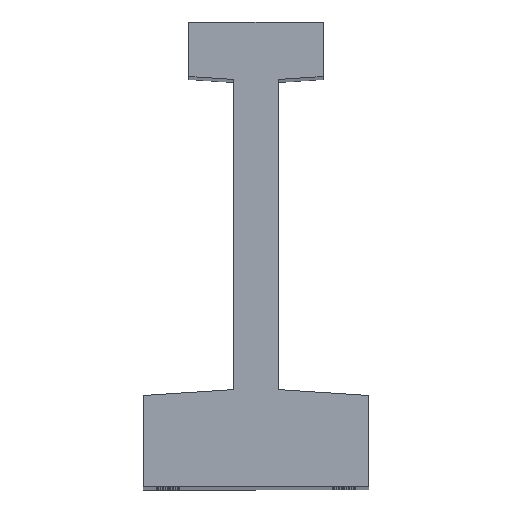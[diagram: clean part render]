
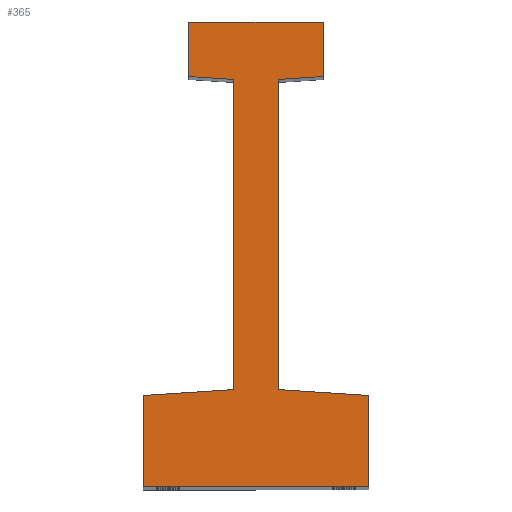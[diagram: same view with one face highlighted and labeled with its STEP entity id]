
A CAD part, top view. The second image highlights one B-rep face of the part: STEP entity #365.
In plain terms, the highlighted planar face has unit normal (0, 0, 1).
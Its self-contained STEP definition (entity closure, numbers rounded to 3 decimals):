
#59 = CARTESIAN_POINT ( 'NONE',  ( -3.8, -62.7, 301. ) ) ;
#66 = LINE ( 'NONE', #3134, #3280 ) ;
#207 = VECTOR ( 'NONE', #2599, 1000. ) ;
#251 = EDGE_CURVE ( 'NONE', #1203, #593, #1836, .T. ) ;
#257 = VERTEX_POINT ( 'NONE', #3885 ) ;
#365 = ADVANCED_FACE ( 'NONE', ( #2410 ), #379, .T. ) ;
#379 = PLANE ( 'NONE',  #1222 ) ;
#400 = EDGE_CURVE ( 'NONE', #1621, #1203, #1682, .T. ) ;
#476 = VECTOR ( 'NONE', #3908, 1000. ) ;
#521 = ORIENTED_EDGE ( 'NONE', *, *, #736, .T. ) ;
#567 = VERTEX_POINT ( 'NONE', #3500 ) ;
#593 = VERTEX_POINT ( 'NONE', #1093 ) ;
#606 = ORIENTED_EDGE ( 'NONE', *, *, #1360, .T. ) ;
#626 = DIRECTION ( 'NONE',  ( 1., 0., 0. ) ) ;
#697 = VERTEX_POINT ( 'NONE', #829 ) ;
#736 = EDGE_CURVE ( 'NONE', #593, #994, #2175, .T. ) ;
#829 = CARTESIAN_POINT ( 'NONE',  ( -3.8, -62.7, 301. ) ) ;
#862 = VECTOR ( 'NONE', #2833, 1000. ) ;
#907 = LINE ( 'NONE', #3488, #1824 ) ;
#994 = VERTEX_POINT ( 'NONE', #1033 ) ;
#1033 = CARTESIAN_POINT ( 'NONE',  ( 11.45, 0., 301. ) ) ;
#1093 = CARTESIAN_POINT ( 'NONE',  ( 11.45, -9.3, 301. ) ) ;
#1098 = CARTESIAN_POINT ( 'NONE',  ( -19.25, -63.7, 301. ) ) ;
#1175 = CARTESIAN_POINT ( 'NONE',  ( -11.45, 0., 301. ) ) ;
#1180 = CARTESIAN_POINT ( 'NONE',  ( 3.8, -9.795, 301. ) ) ;
#1203 = VERTEX_POINT ( 'NONE', #1180 ) ;
#1222 = AXIS2_PLACEMENT_3D ( 'NONE', #2201, #2846, #1289 ) ;
#1264 = CARTESIAN_POINT ( 'NONE',  ( 19.25, -79.3, 301. ) ) ;
#1289 = DIRECTION ( 'NONE',  ( 1., 0., 0. ) ) ;
#1331 = DIRECTION ( 'NONE',  ( 0., -1., 0. ) ) ;
#1360 = EDGE_CURVE ( 'NONE', #3084, #2792, #3286, .T. ) ;
#1449 = DIRECTION ( 'NONE',  ( 0., 1., 0. ) ) ;
#1469 = VERTEX_POINT ( 'NONE', #3446 ) ;
#1483 = EDGE_CURVE ( 'NONE', #567, #1469, #66, .T. ) ;
#1509 = LINE ( 'NONE', #59, #207 ) ;
#1528 = VECTOR ( 'NONE', #1595, 1000. ) ;
#1595 = DIRECTION ( 'NONE',  ( -0.998, 0.065, 0. ) ) ;
#1611 = ORIENTED_EDGE ( 'NONE', *, *, #3461, .T. ) ;
#1620 = CARTESIAN_POINT ( 'NONE',  ( 3.8, -9.795, 301. ) ) ;
#1621 = VERTEX_POINT ( 'NONE', #3862 ) ;
#1682 = LINE ( 'NONE', #1620, #862 ) ;
#1683 = VECTOR ( 'NONE', #626, 1000. ) ;
#1752 = VECTOR ( 'NONE', #1331, 1000. ) ;
#1787 = VECTOR ( 'NONE', #3614, 1000. ) ;
#1810 = ORIENTED_EDGE ( 'NONE', *, *, #400, .T. ) ;
#1824 = VECTOR ( 'NONE', #2242, 1000. ) ;
#1836 = LINE ( 'NONE', #2937, #476 ) ;
#1879 = LINE ( 'NONE', #2736, #1787 ) ;
#2057 = CARTESIAN_POINT ( 'NONE',  ( 11.45, 0., 301. ) ) ;
#2137 = EDGE_CURVE ( 'NONE', #3958, #3084, #2865, .T. ) ;
#2175 = LINE ( 'NONE', #2057, #3631 ) ;
#2199 = ORIENTED_EDGE ( 'NONE', *, *, #2137, .T. ) ;
#2201 = CARTESIAN_POINT ( 'NONE',  ( 0., 0., 301. ) ) ;
#2242 = DIRECTION ( 'NONE',  ( 0., 1., 0. ) ) ;
#2246 = ORIENTED_EDGE ( 'NONE', *, *, #2969, .T. ) ;
#2257 = VECTOR ( 'NONE', #2465, 1000. ) ;
#2279 = CARTESIAN_POINT ( 'NONE',  ( 19.25, -79.3, 301. ) ) ;
#2352 = EDGE_LOOP ( 'NONE', ( #2804, #521, #1611, #3986, #2246, #3998, #2788, #2199, #606, #3758, #2595, #1810 ) ) ;
#2410 = FACE_OUTER_BOUND ( 'NONE', #2352, .T. ) ;
#2440 = DIRECTION ( 'NONE',  ( -1., 0., 0. ) ) ;
#2462 = LINE ( 'NONE', #3983, #2257 ) ;
#2465 = DIRECTION ( 'NONE',  ( 0.998, -0.065, 0. ) ) ;
#2524 = CARTESIAN_POINT ( 'NONE',  ( -19.25, -79.3, 301. ) ) ;
#2595 = ORIENTED_EDGE ( 'NONE', *, *, #3835, .T. ) ;
#2599 = DIRECTION ( 'NONE',  ( 0., -1., 0. ) ) ;
#2736 = CARTESIAN_POINT ( 'NONE',  ( -19.25, -63.7, 301. ) ) ;
#2766 = EDGE_CURVE ( 'NONE', #257, #697, #1509, .T. ) ;
#2788 = ORIENTED_EDGE ( 'NONE', *, *, #3476, .T. ) ;
#2792 = VERTEX_POINT ( 'NONE', #2279 ) ;
#2804 = ORIENTED_EDGE ( 'NONE', *, *, #251, .T. ) ;
#2833 = DIRECTION ( 'NONE',  ( 0., 1., 0. ) ) ;
#2846 = DIRECTION ( 'NONE',  ( 0., 0., 1. ) ) ;
#2865 = LINE ( 'NONE', #3772, #1752 ) ;
#2936 = LINE ( 'NONE', #1175, #3337 ) ;
#2937 = CARTESIAN_POINT ( 'NONE',  ( 11.45, -9.3, 301. ) ) ;
#2969 = EDGE_CURVE ( 'NONE', #1469, #257, #2462, .T. ) ;
#3082 = LINE ( 'NONE', #3449, #1528 ) ;
#3084 = VERTEX_POINT ( 'NONE', #2524 ) ;
#3116 = DIRECTION ( 'NONE',  ( 0., -1., 0. ) ) ;
#3134 = CARTESIAN_POINT ( 'NONE',  ( -11.45, -9.3, 301. ) ) ;
#3280 = VECTOR ( 'NONE', #3116, 1000. ) ;
#3286 = LINE ( 'NONE', #1264, #1683 ) ;
#3337 = VECTOR ( 'NONE', #2440, 1000. ) ;
#3357 = CARTESIAN_POINT ( 'NONE',  ( 19.25, -63.7, 301. ) ) ;
#3366 = VERTEX_POINT ( 'NONE', #3357 ) ;
#3446 = CARTESIAN_POINT ( 'NONE',  ( -11.45, -9.3, 301. ) ) ;
#3449 = CARTESIAN_POINT ( 'NONE',  ( 3.8, -62.7, 301. ) ) ;
#3461 = EDGE_CURVE ( 'NONE', #994, #567, #2936, .T. ) ;
#3476 = EDGE_CURVE ( 'NONE', #697, #3958, #1879, .T. ) ;
#3488 = CARTESIAN_POINT ( 'NONE',  ( 19.25, -63.7, 301. ) ) ;
#3500 = CARTESIAN_POINT ( 'NONE',  ( -11.45, 0., 301. ) ) ;
#3614 = DIRECTION ( 'NONE',  ( -0.998, -0.065, 0. ) ) ;
#3631 = VECTOR ( 'NONE', #1449, 1000. ) ;
#3758 = ORIENTED_EDGE ( 'NONE', *, *, #3804, .T. ) ;
#3772 = CARTESIAN_POINT ( 'NONE',  ( -19.25, -79.3, 301. ) ) ;
#3804 = EDGE_CURVE ( 'NONE', #2792, #3366, #907, .T. ) ;
#3835 = EDGE_CURVE ( 'NONE', #3366, #1621, #3082, .T. ) ;
#3862 = CARTESIAN_POINT ( 'NONE',  ( 3.8, -62.7, 301. ) ) ;
#3885 = CARTESIAN_POINT ( 'NONE',  ( -3.8, -9.795, 301. ) ) ;
#3908 = DIRECTION ( 'NONE',  ( 0.998, 0.065, 0. ) ) ;
#3958 = VERTEX_POINT ( 'NONE', #1098 ) ;
#3983 = CARTESIAN_POINT ( 'NONE',  ( -3.8, -9.795, 301. ) ) ;
#3986 = ORIENTED_EDGE ( 'NONE', *, *, #1483, .T. ) ;
#3998 = ORIENTED_EDGE ( 'NONE', *, *, #2766, .T. ) ;
